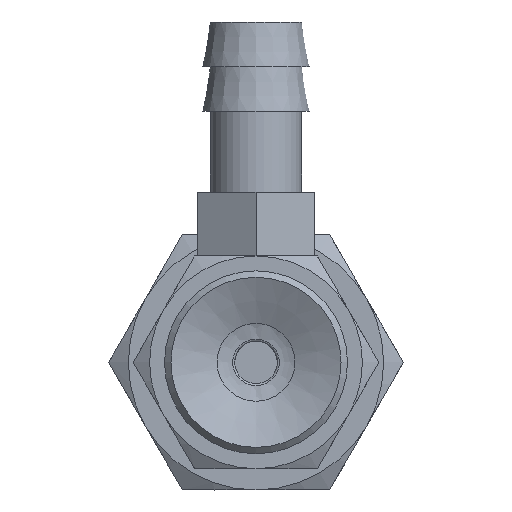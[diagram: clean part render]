
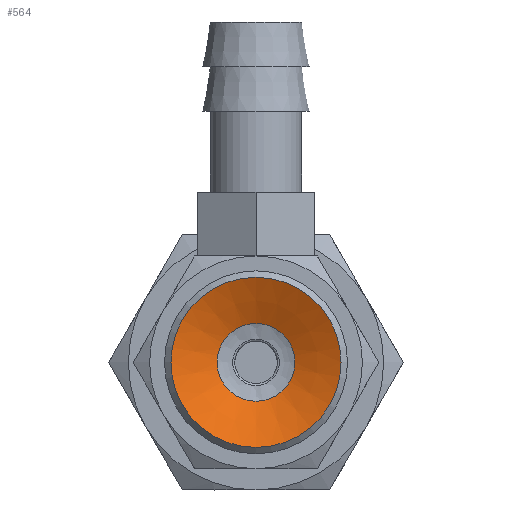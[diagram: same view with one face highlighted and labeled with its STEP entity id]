
A CAD part, front view. The second image highlights one B-rep face of the part: STEP entity #564.
In plain terms, the highlighted conical face has half-angle 65 degrees and reference radius 1.427 mm.
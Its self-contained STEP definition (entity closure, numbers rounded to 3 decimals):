
#564=ADVANCED_FACE('',(#856,#857),#858,.F.);
#856=FACE_BOUND('',#1191,.T.);
#857=FACE_OUTER_BOUND('',#1192,.T.);
#858=CONICAL_SURFACE('',#1193,1.427,1.134);
#1191=EDGE_LOOP('',(#2025));
#1192=EDGE_LOOP('',(#2026));
#1193=AXIS2_PLACEMENT_3D('',#2027,#2028,#2029);
#2025=ORIENTED_EDGE('',*,*,#2376,.T.);
#2026=ORIENTED_EDGE('',*,*,#2363,.T.);
#2027=CARTESIAN_POINT('',(0.0,7.096,0.));
#2028=DIRECTION('',(-0.0,-1.0,0.));
#2029=DIRECTION('',(0.0,0.,-1.0));
#2363=EDGE_CURVE('',#2733,#2733,#2734,.T.);
#2376=EDGE_CURVE('',#2759,#2759,#2760,.T.);
#2733=VERTEX_POINT('',#3565);
#2734=CIRCLE('',#3566,4.0);
#2759=VERTEX_POINT('',#3591);
#2760=CIRCLE('',#3592,1.828);
#3565=CARTESIAN_POINT('',(0.0,5.896,-4.0));
#3566=AXIS2_PLACEMENT_3D('',#3933,#3934,#3935);
#3591=CARTESIAN_POINT('',(0.0,6.909,-1.828));
#3592=AXIS2_PLACEMENT_3D('',#3972,#3973,#3974);
#3933=CARTESIAN_POINT('',(0.0,5.896,0.0));
#3934=DIRECTION('',(0.0,-1.0,0.));
#3935=DIRECTION('',(0.0,0.,-1.0));
#3972=CARTESIAN_POINT('',(0.0,6.909,0.0));
#3973=DIRECTION('',(0.0,1.0,0.));
#3974=DIRECTION('',(0.0,0.,-1.0));
